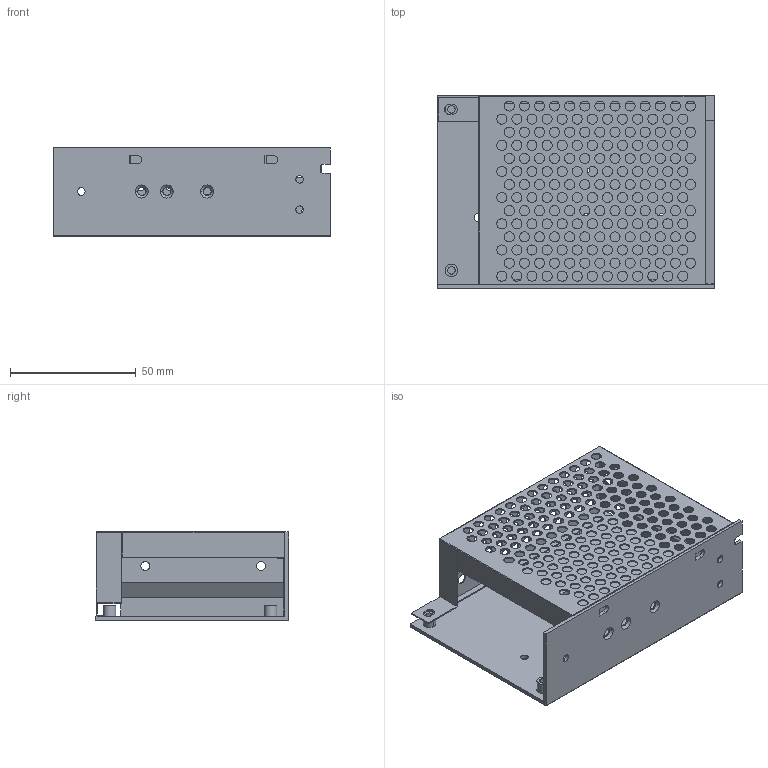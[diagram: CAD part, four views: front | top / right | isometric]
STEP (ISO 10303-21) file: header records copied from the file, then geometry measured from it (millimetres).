
FILE_DESCRIPTION((''),'2;1');
FILE_NAME('ASM0001_ASM','2014-11-10T',('Administrator'),(''),'PRO/ENGINEER BY PARAMETRIC TECHNOLOGY CORPORATION, 2009360','PRO/ENGINEER BY PARAMETRIC TECHNOLOGY CORPORATION, 2009360','');
FILE_SCHEMA(('CONFIG_CONTROL_DESIGN'));
Length unit declared in the file: millimetre
Products named in the file (3): DIKE; SHANGKE; ASM0001_ASM
Assembly tree (2 placements, depth 2):
  ASM0001_ASM
    DIKE
    SHANGKE
Bounding box: 110 x 76.7 x 35 mm (x, y, z)
Volume: 25855.3 mm3; surface area: 49384 mm2
Topology: 2 solids, 2 shells, 652 faces, 1910 edges, 1266 vertices
Faces by surface type: cylinder 550, plane 93, cone 6, sphere 3
Entity records: 23386 total; most frequent: DIRECTION 4324, CARTESIAN_POINT 3843, ORIENTED_EDGE 3820, EDGE_CURVE 1910, AXIS2_PLACEMENT_3D 1759, VERTEX_POINT 1266, EDGE_LOOP 1182, CIRCLE 1102
